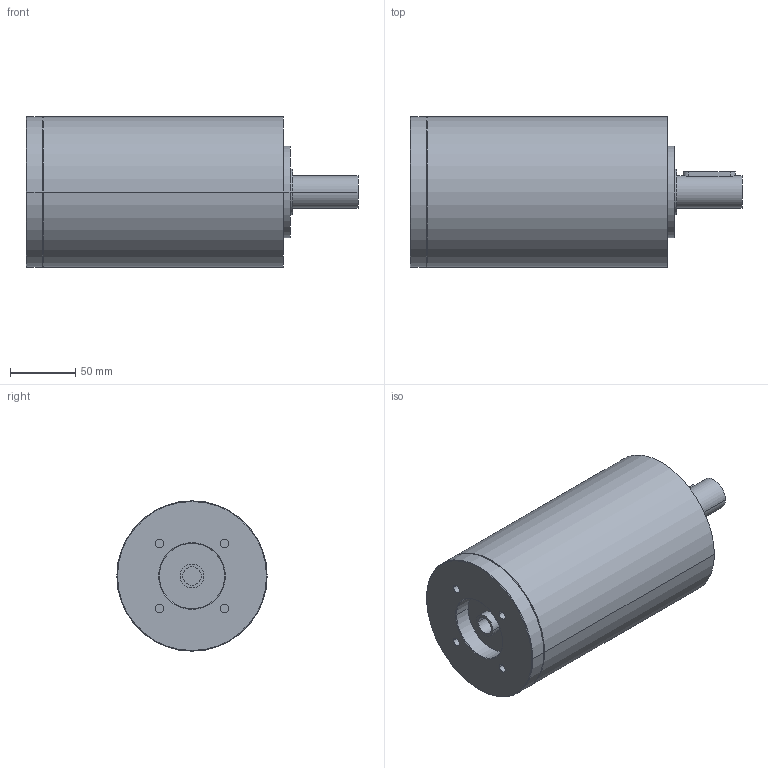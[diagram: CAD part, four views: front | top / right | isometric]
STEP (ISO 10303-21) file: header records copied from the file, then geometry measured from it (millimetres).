
FILE_DESCRIPTION(('CoCreate Modeling STEP Export'),'2;1');
FILE_NAME('GPR125_ig-48-64-80-100-140-196-245-343_25_B14_14_P14.stp','2014-08-26T14:20:50',(''),(''),'CoCreate Modeling STEP processor for AP214 (Solid Model)','CoCreate Modeling 16.00C 25-Feb-2009 (C) Parametric Technology GmbH','');
FILE_SCHEMA(('AUTOMOTIVE_DESIGN { 1 0 10303 214 1 1 1 1 }'));
Length unit declared in the file: millimetre
Products named in the file (2): GPR125_ig-48-64-80-100-140-196-245-343_25_B14_14_P14
Assembly tree (1 placements, depth 2):
  GPR125_ig-48-64-80-100-140-196-245-343_25_B14_14_P14
    GPR125_ig-48-64-80-100-140-196-245-343_25_B14_14_P14
Bounding box: 254 x 115 x 115 mm (x, y, z)
Volume: 2056287.1 mm3; surface area: 105717.8 mm2
Topology: 1 solids, 1 shells, 78 faces, 192 edges, 134 vertices
Faces by surface type: cylinder 44, plane 24, cone 10
Entity records: 1955 total; most frequent: ORIENTED_EDGE 380, CARTESIAN_POINT 360, DIRECTION 256, EDGE_CURVE 190, VERTEX_POINT 134, AXIS2_PLACEMENT_3D 98, EDGE_LOOP 98, FACE_OUTER_BOUND 78
